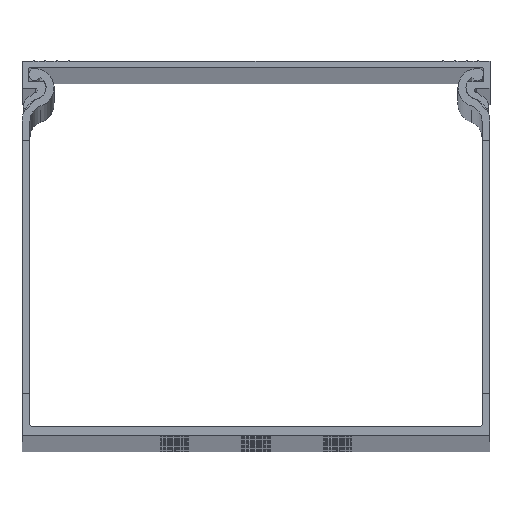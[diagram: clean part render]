
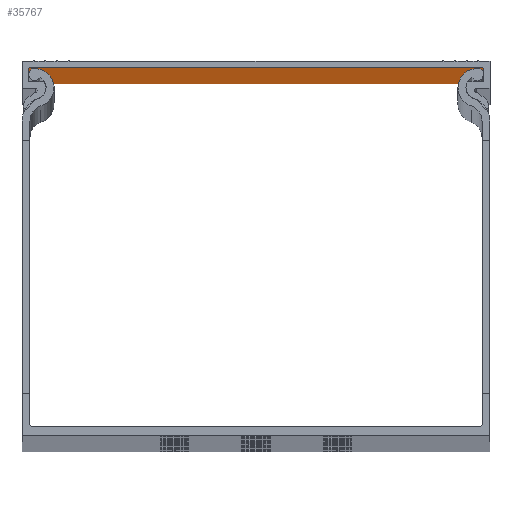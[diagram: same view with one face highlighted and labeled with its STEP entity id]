
A CAD part, top view. The second image highlights one B-rep face of the part: STEP entity #35767.
In plain terms, the highlighted planar face has unit normal (0, -1, 0).
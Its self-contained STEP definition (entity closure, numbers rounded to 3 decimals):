
#203 = VECTOR ( 'NONE', #55198, 1000. ) ;
#503 = CARTESIAN_POINT ( 'NONE',  ( 2568.407, 1295.656, 0. ) ) ;
#717 = EDGE_LOOP ( 'NONE', ( #19561, #29665, #14026, #53227 ) ) ;
#1328 = EDGE_CURVE ( 'NONE', #20890, #35836, #27322, .T. ) ;
#1511 = CARTESIAN_POINT ( 'NONE',  ( 2520.007, 1295.656, 2000. ) ) ;
#9447 = CARTESIAN_POINT ( 'NONE',  ( 2616.807, 1295.656, 0. ) ) ;
#10246 = CARTESIAN_POINT ( 'NONE',  ( 2616.807, 1295.656, 2000. ) ) ;
#14026 = ORIENTED_EDGE ( 'NONE', *, *, #1328, .F. ) ;
#17079 = FACE_OUTER_BOUND ( 'NONE', #717, .T. ) ;
#17202 = DIRECTION ( 'NONE',  ( 1., 0., 0. ) ) ;
#18175 = EDGE_CURVE ( 'NONE', #20890, #41201, #27888, .T. ) ;
#19561 = ORIENTED_EDGE ( 'NONE', *, *, #56321, .T. ) ;
#20287 = EDGE_CURVE ( 'NONE', #35836, #52504, #36578, .T. ) ;
#20890 = VERTEX_POINT ( 'NONE', #30435 ) ;
#21883 = VECTOR ( 'NONE', #37316, 1000. ) ;
#22285 = LINE ( 'NONE', #503, #27785 ) ;
#23333 = AXIS2_PLACEMENT_3D ( 'NONE', #45219, #49654, #40592 ) ;
#27322 = LINE ( 'NONE', #46767, #21883 ) ;
#27338 = PLANE ( 'NONE',  #23333 ) ;
#27785 = VECTOR ( 'NONE', #17202, 1000. ) ;
#27888 = LINE ( 'NONE', #1511, #55482 ) ;
#29665 = ORIENTED_EDGE ( 'NONE', *, *, #20287, .F. ) ;
#30435 = CARTESIAN_POINT ( 'NONE',  ( 2520.007, 1295.656, 2000. ) ) ;
#35767 = ADVANCED_FACE ( 'NONE', ( #17079 ), #27338, .F. ) ;
#35836 = VERTEX_POINT ( 'NONE', #10246 ) ;
#36578 = LINE ( 'NONE', #47843, #203 ) ;
#37316 = DIRECTION ( 'NONE',  ( 1., 0., 0. ) ) ;
#37650 = CARTESIAN_POINT ( 'NONE',  ( 2520.007, 1295.656, 0. ) ) ;
#40592 = DIRECTION ( 'NONE',  ( 0., 0., 1. ) ) ;
#41201 = VERTEX_POINT ( 'NONE', #37650 ) ;
#45219 = CARTESIAN_POINT ( 'NONE',  ( 2568.407, 1295.656, 2000. ) ) ;
#46767 = CARTESIAN_POINT ( 'NONE',  ( 2568.407, 1295.656, 2000. ) ) ;
#47843 = CARTESIAN_POINT ( 'NONE',  ( 2616.807, 1295.656, 2000. ) ) ;
#48956 = DIRECTION ( 'NONE',  ( 0., 0., -1. ) ) ;
#49654 = DIRECTION ( 'NONE',  ( 0., 1., 0. ) ) ;
#52504 = VERTEX_POINT ( 'NONE', #9447 ) ;
#53227 = ORIENTED_EDGE ( 'NONE', *, *, #18175, .T. ) ;
#55198 = DIRECTION ( 'NONE',  ( 0., 0., -1. ) ) ;
#55482 = VECTOR ( 'NONE', #48956, 1000. ) ;
#56321 = EDGE_CURVE ( 'NONE', #41201, #52504, #22285, .T. ) ;
